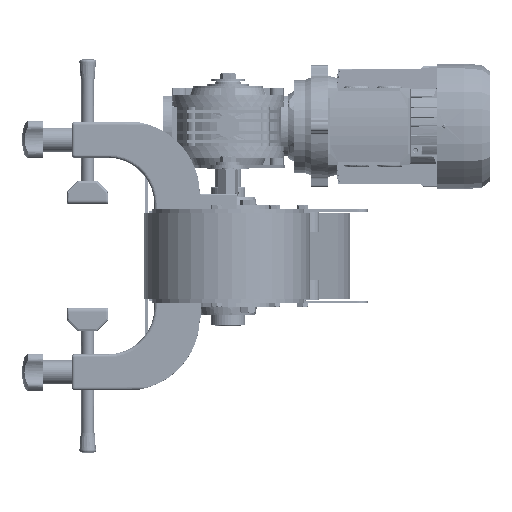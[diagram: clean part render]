
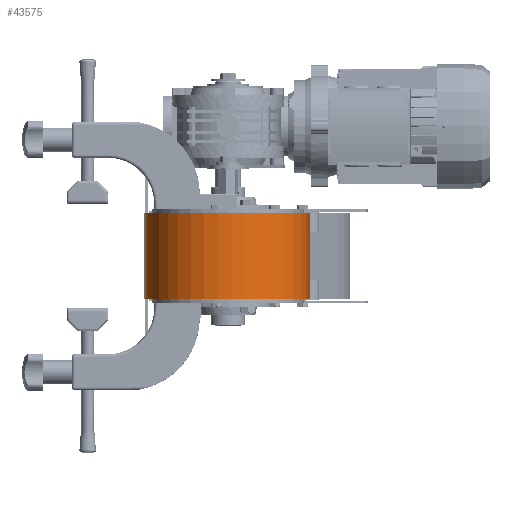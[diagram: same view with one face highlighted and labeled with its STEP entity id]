
A CAD part, left-side view. The second image highlights one B-rep face of the part: STEP entity #43575.
In plain terms, the highlighted free-form (B-spline) face has degree [1, 3] with [2, 28] control points.
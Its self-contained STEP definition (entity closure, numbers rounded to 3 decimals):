
#3954 = CARTESIAN_POINT ( 'NONE',  ( 41.25, 2.622, 1604.508 ) ) ;
#4225 = ORIENTED_EDGE ( 'NONE', *, *, #39262, .T. ) ;
#6489 = CARTESIAN_POINT ( 'NONE',  ( 41.25, -98.312, 1677.362 ) ) ;
#7184 = CARTESIAN_POINT ( 'NONE',  ( 41.25, -135.647, 1654.633 ) ) ;
#7286 = CARTESIAN_POINT ( 'NONE',  ( -41.25, 2.622, 1604.508 ) ) ;
#9656 = VERTEX_POINT ( 'NONE', #53121 ) ;
#11260 = DIRECTION ( 'NONE',  ( 1., 0., 0. ) ) ;
#11960 = B_SPLINE_SURFACE_WITH_KNOTS ( 'NONE', 1, 3, ( 
 ( #57942, #47500, #90650, #132437, #122001, #26667, #69080, #133103, #37766, #113624, #126115, #18302, #69766, #61399, #17615, #80880, #50937, #93406, #133799, #60714, #102458, #18994, #28052, #70455, #103854, #135858, #40514, #83642 ),
 ( #101758, #59328, #60017, #104525, #71136, #7184, #92725, #29422, #6489, #112245, #135168, #62060, #91344, #72523, #134496, #39147, #28729, #19658, #48863, #103163, #124740, #49569, #81577, #112922, #38451, #30123, #92037, #124056 ) ),
 .UNSPECIFIED., .F., .F., .F.,
 ( 2, 2 ),
 ( 4, 2, 2, 2, 2, 2, 2, 2, 2, 2, 2, 2, 2, 4 ),
 ( 0., 1. ),
 ( 0.904, 0.916, 0.928, 0.94, 0.952, 0.964, 0.976, 0.988, 0.994, 0.997, 0.999, 0.999, 1., 1. ),
 .UNSPECIFIED. ) ;
#17615 = CARTESIAN_POINT ( 'NONE',  ( -41.25, -10.775, 1645.699 ) ) ;
#18302 = CARTESIAN_POINT ( 'NONE',  ( -41.25, -44.494, 1673.512 ) ) ;
#18994 = CARTESIAN_POINT ( 'NONE',  ( -41.25, 2.358, 1607.913 ) ) ;
#19063 = DIRECTION ( 'NONE',  ( 0., -0.977, -0.211 ) ) ;
#19658 = CARTESIAN_POINT ( 'NONE',  ( 41.25, 0.729, 1618.027 ) ) ;
#21093 = DIRECTION ( 'NONE',  ( 0., -0.977, -0.211 ) ) ;
#26171 = DIRECTION ( 'NONE',  ( 0., 0.057, -0.998 ) ) ;
#26667 = CARTESIAN_POINT ( 'NONE',  ( -41.25, -135.647, 1654.633 ) ) ;
#28052 = CARTESIAN_POINT ( 'NONE',  ( -41.25, 2.423, 1607.233 ) ) ;
#28729 = CARTESIAN_POINT ( 'NONE',  ( 41.25, -1.401, 1625.944 ) ) ;
#29422 = CARTESIAN_POINT ( 'NONE',  ( 41.25, -108.831, 1673.632 ) ) ;
#30123 = CARTESIAN_POINT ( 'NONE',  ( 41.25, 2.626, 1604.439 ) ) ;
#30936 = VERTEX_POINT ( 'NONE', #136649 ) ;
#32736 = ORIENTED_EDGE ( 'NONE', *, *, #132750, .T. ) ;
#35666 = CIRCLE ( 'NONE', #111239, 79.55 ) ;
#35798 = CARTESIAN_POINT ( 'NONE',  ( 41.25, 2.626, 1604.436 ) ) ;
#37766 = CARTESIAN_POINT ( 'NONE',  ( -41.25, -98.312, 1677.362 ) ) ;
#38451 = CARTESIAN_POINT ( 'NONE',  ( 41.25, 2.585, 1605.169 ) ) ;
#39147 = CARTESIAN_POINT ( 'NONE',  ( 41.25, -3.366, 1631.073 ) ) ;
#39262 = EDGE_CURVE ( 'NONE', #55457, #9656, #137599, .T. ) ;
#40514 = CARTESIAN_POINT ( 'NONE',  ( -41.25, 2.63, 1604.376 ) ) ;
#42244 = CARTESIAN_POINT ( 'NONE',  ( 0., 2.626, 1604.436 ) ) ;
#43575 = ADVANCED_FACE ( 'NONE', ( #79499 ), #11960, .T. ) ;
#44592 = CARTESIAN_POINT ( 'NONE',  ( 41.25, -154.558, 1583.211 ) ) ;
#47500 = CARTESIAN_POINT ( 'NONE',  ( -41.25, -156.865, 1593.897 ) ) ;
#48863 = CARTESIAN_POINT ( 'NONE',  ( 41.25, 1.302, 1615.352 ) ) ;
#49569 = CARTESIAN_POINT ( 'NONE',  ( 41.25, 2.358, 1607.913 ) ) ;
#49851 = ORIENTED_EDGE ( 'NONE', *, *, #96990, .T. ) ;
#50726 = ORIENTED_EDGE ( 'NONE', *, *, #78094, .T. ) ;
#50937 = CARTESIAN_POINT ( 'NONE',  ( -41.25, -1.401, 1625.944 ) ) ;
#51681 = DIRECTION ( 'NONE',  ( -1., 0., 0. ) ) ;
#53121 = CARTESIAN_POINT ( 'NONE',  ( -41.25, 2.626, 1604.436 ) ) ;
#53770 = CARTESIAN_POINT ( 'NONE',  ( 41.25, 2.622, 1604.508 ) ) ;
#55457 = VERTEX_POINT ( 'NONE', #35798 ) ;
#55708 = VERTEX_POINT ( 'NONE', #131575 ) ;
#57942 = CARTESIAN_POINT ( 'NONE',  ( -41.25, -154.558, 1583.211 ) ) ;
#59328 = CARTESIAN_POINT ( 'NONE',  ( 41.25, -156.865, 1593.897 ) ) ;
#60017 = CARTESIAN_POINT ( 'NONE',  ( 41.25, -156.938, 1605.056 ) ) ;
#60714 = CARTESIAN_POINT ( 'NONE',  ( -41.25, 1.954, 1611.305 ) ) ;
#61399 = CARTESIAN_POINT ( 'NONE',  ( -41.25, -17.749, 1654.412 ) ) ;
#62060 = CARTESIAN_POINT ( 'NONE',  ( 41.25, -44.494, 1673.512 ) ) ;
#64332 = EDGE_CURVE ( 'NONE', #30936, #55708, #124421, .T. ) ;
#65611 = VERTEX_POINT ( 'NONE', #53770 ) ;
#68851 = AXIS2_PLACEMENT_3D ( 'NONE', #96200, #51681, #21093 ) ;
#69080 = CARTESIAN_POINT ( 'NONE',  ( -41.25, -127.503, 1662.265 ) ) ;
#69766 = CARTESIAN_POINT ( 'NONE',  ( -41.25, -34.613, 1668.322 ) ) ;
#70455 = CARTESIAN_POINT ( 'NONE',  ( -41.25, 2.536, 1605.871 ) ) ;
#70522 = DIRECTION ( 'NONE',  ( -1., 0., 0. ) ) ;
#70567 = EDGE_LOOP ( 'NONE', ( #49851, #4225, #99251, #120916, #32736, #50726 ) ) ;
#71136 = CARTESIAN_POINT ( 'NONE',  ( 41.25, -148.201, 1636.737 ) ) ;
#72523 = CARTESIAN_POINT ( 'NONE',  ( 41.25, -17.749, 1654.412 ) ) ;
#75924 = LINE ( 'NONE', #44592, #80719 ) ;
#78094 = EDGE_CURVE ( 'NONE', #125224, #65611, #35666, .T. ) ;
#79268 = CARTESIAN_POINT ( 'NONE',  ( 41.25, -154.558, 1583.211 ) ) ;
#79499 = FACE_OUTER_BOUND ( 'NONE', #70567, .T. ) ;
#80719 = VECTOR ( 'NONE', #11260, 1000. ) ;
#80880 = CARTESIAN_POINT ( 'NONE',  ( -41.25, -3.366, 1631.073 ) ) ;
#81577 = CARTESIAN_POINT ( 'NONE',  ( 41.25, 2.423, 1607.233 ) ) ;
#83642 = CARTESIAN_POINT ( 'NONE',  ( -41.25, 2.634, 1604.308 ) ) ;
#90081 = DIRECTION ( 'NONE',  ( 0., 0.057, -0.998 ) ) ;
#90650 = CARTESIAN_POINT ( 'NONE',  ( -41.25, -156.938, 1605.056 ) ) ;
#90801 = EDGE_CURVE ( 'NONE', #55708, #9656, #133904, .T. ) ;
#91344 = CARTESIAN_POINT ( 'NONE',  ( 41.25, -34.613, 1668.322 ) ) ;
#92037 = CARTESIAN_POINT ( 'NONE',  ( 41.25, 2.63, 1604.376 ) ) ;
#92725 = CARTESIAN_POINT ( 'NONE',  ( 41.25, -127.503, 1662.265 ) ) ;
#93096 = DIRECTION ( 'NONE',  ( -1., 0., 0. ) ) ;
#93406 = CARTESIAN_POINT ( 'NONE',  ( -41.25, 0.729, 1618.027 ) ) ;
#96200 = CARTESIAN_POINT ( 'NONE',  ( -41.25, -76.8, 1600. ) ) ;
#96990 = EDGE_CURVE ( 'NONE', #65611, #55457, #120130, .T. ) ;
#99251 = ORIENTED_EDGE ( 'NONE', *, *, #90801, .F. ) ;
#101758 = CARTESIAN_POINT ( 'NONE',  ( 41.25, -154.558, 1583.211 ) ) ;
#102458 = CARTESIAN_POINT ( 'NONE',  ( -41.25, 2.137, 1609.951 ) ) ;
#103163 = CARTESIAN_POINT ( 'NONE',  ( 41.25, 1.954, 1611.305 ) ) ;
#103854 = CARTESIAN_POINT ( 'NONE',  ( -41.25, 2.585, 1605.169 ) ) ;
#104525 = CARTESIAN_POINT ( 'NONE',  ( 41.25, -152.605, 1626.482 ) ) ;
#106485 = VECTOR ( 'NONE', #26171, 1000. ) ;
#111239 = AXIS2_PLACEMENT_3D ( 'NONE', #114405, #70522, #19063 ) ;
#112245 = CARTESIAN_POINT ( 'NONE',  ( 41.25, -76.65, 1680.297 ) ) ;
#112922 = CARTESIAN_POINT ( 'NONE',  ( 41.25, 2.536, 1605.871 ) ) ;
#113624 = CARTESIAN_POINT ( 'NONE',  ( -41.25, -76.65, 1680.297 ) ) ;
#114405 = CARTESIAN_POINT ( 'NONE',  ( 41.25, -76.8, 1600. ) ) ;
#120130 = LINE ( 'NONE', #3954, #106485 ) ;
#120916 = ORIENTED_EDGE ( 'NONE', *, *, #64332, .F. ) ;
#122001 = CARTESIAN_POINT ( 'NONE',  ( -41.25, -148.201, 1636.737 ) ) ;
#124056 = CARTESIAN_POINT ( 'NONE',  ( 41.25, 2.634, 1604.308 ) ) ;
#124421 = CIRCLE ( 'NONE', #68851, 79.55 ) ;
#124607 = VECTOR ( 'NONE', #93096, 1000. ) ;
#124740 = CARTESIAN_POINT ( 'NONE',  ( 41.25, 2.137, 1609.951 ) ) ;
#125224 = VERTEX_POINT ( 'NONE', #79268 ) ;
#125715 = VECTOR ( 'NONE', #90081, 1000. ) ;
#126115 = CARTESIAN_POINT ( 'NONE',  ( -41.25, -65.517, 1679.501 ) ) ;
#131575 = CARTESIAN_POINT ( 'NONE',  ( -41.25, 2.622, 1604.508 ) ) ;
#132437 = CARTESIAN_POINT ( 'NONE',  ( -41.25, -152.605, 1626.482 ) ) ;
#132750 = EDGE_CURVE ( 'NONE', #30936, #125224, #75924, .T. ) ;
#133103 = CARTESIAN_POINT ( 'NONE',  ( -41.25, -108.831, 1673.632 ) ) ;
#133799 = CARTESIAN_POINT ( 'NONE',  ( -41.25, 1.302, 1615.352 ) ) ;
#133904 = LINE ( 'NONE', #7286, #125715 ) ;
#134496 = CARTESIAN_POINT ( 'NONE',  ( 41.25, -10.775, 1645.699 ) ) ;
#135168 = CARTESIAN_POINT ( 'NONE',  ( 41.25, -65.517, 1679.501 ) ) ;
#135858 = CARTESIAN_POINT ( 'NONE',  ( -41.25, 2.626, 1604.439 ) ) ;
#136649 = CARTESIAN_POINT ( 'NONE',  ( -41.25, -154.558, 1583.211 ) ) ;
#137599 = LINE ( 'NONE', #42244, #124607 ) ;
